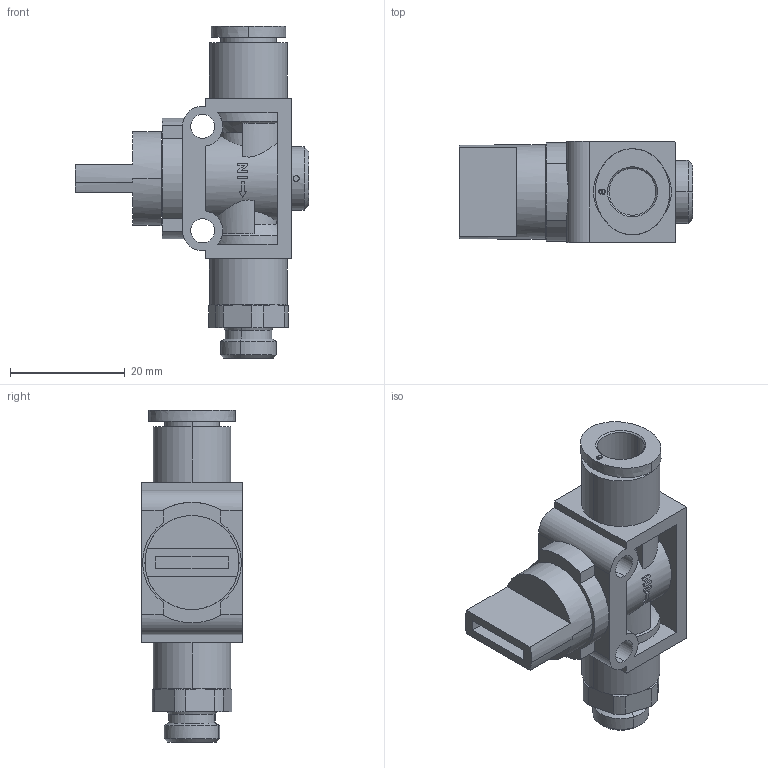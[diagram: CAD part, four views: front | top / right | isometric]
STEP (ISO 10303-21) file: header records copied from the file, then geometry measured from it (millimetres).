
FILE_DESCRIPTION((''),'2;1');
FILE_NAME('R412005460','2023-03-21T14:20:52',('GND7HC'),(''),'CREO PARAMETRIC BY PTC INC, 2020044','CREO PARAMETRIC BY PTC INC, 2020044','');
FILE_SCHEMA(('CONFIG_CONTROL_DESIGN','SHAPE_APPEARANCE_LAYERS_GROUPS'));
Length unit declared in the file: millimetre
Products named in the file (1): R412005460
Bounding box: 40.7 x 17.6 x 57.9 mm (x, y, z)
Volume: 12508.3 mm3; surface area: 7301.4 mm2
Topology: 1 solids, 1 shells, 259 faces, 704 edges, 473 vertices
Faces by surface type: plane 170, cylinder 65, cone 22, extrusion 2
Entity records: 14213 total; most frequent: CARTESIAN_POINT 2289, ORIENTED_EDGE 1408, DIRECTION 1341, PRESENTATION_STYLE_ASSIGNMENT 966, STYLED_ITEM 707, CURVE_STYLE 706, EDGE_CURVE 704, FILL_AREA_STYLE_COLOUR 519
